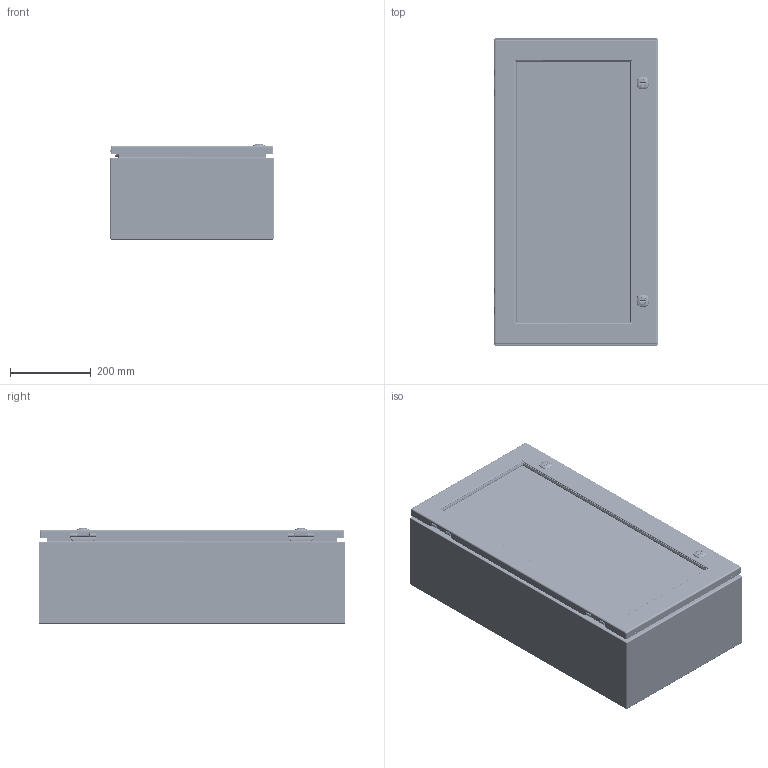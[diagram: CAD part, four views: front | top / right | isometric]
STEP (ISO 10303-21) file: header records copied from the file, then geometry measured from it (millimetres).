
FILE_DESCRIPTION(/* description */ ('5412ESW 30" x 16" x 8" Assembly'),/* implementation_level */ '2;1');
FILE_NAME(/* name */ 'C:\Vault_Workspace\Inventor_Dwg\BoxCad\Result\5412ESW301608\e-mail\3D\5412ESW301608.stp',/* time_stamp */ '2021-09-29T08:29:18-04:00',/* author */ ('BoxCad'),/* organization */ (''),/* preprocessor_version */ 'ST-DEVELOPER v18.1',/* originating_system */ 'Autodesk Inventor 2020',/* authorisation */ '');
FILE_SCHEMA (('AUTOMOTIVE_DESIGN { 1 0 10303 214 3 1 1 }'));
Products named in the file (59): 5412ESW301608; 5412ESW301608B; 5412ESW301608B-P; STK-Q-16005; STUD_M6 x 16mm; STK-S-00100; STK-Q-07610; 881SP3016G; 881SP3016G-P; STK-Q-07310; 5412ESW301608C; 5412ESW301608C-P; 5412ESW301608G; STK-K-09800; STK-K-09800-2; STK-Q-33014; STK-Q-90398; STK-Q-40095; STK-Q-63410; 5412ESW301608LX; 5412ESW301608LXG; 5412ESW301608_STK_G_02705; STK-Q-16052; 5412ESW301608_STK-A-60703; STK-Q-60703-2; STK-Q-60703-1; STK-Q-60703-3; STK-Q-60703-4; STK-Q-60702-A; STK-Q-60703-B; STK-Q-60703-C; STK-Q-60701; STK-Q-60701_1; STK-Q-60701_2; STK-Q-60701_3; STK-Q-60701_4; STK-Q-60701_5; STK-Q-60701_6; STK-Q-60701_7; STK-Q-60701-A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
Assembly tree (127 placements, depth 5):
  5412ESW301608
    5412ESW301608B
      5412ESW301608B-P
      STK-Q-16005  x4
      STK-P-02400S
      STUD_M6 x 16mm
      STK-S-00100
    STK-Q-07610  x4
    881SP3016G
      881SP3016G-P
    STK-Q-07310  x4
    5412ESW301608C
      5412ESW301608C-P
      5412ESW301608G
      STK-K-09800
        STK-Q-33014
        STK-Q-90398
        STK-Q-40095  x2
        STK-Q-63410  x2
      STK-K-09800-2
        STK-Q-33014
        STK-Q-90398
        STK-Q-40095  x2
        STK-Q-63410  x2
      5412ESW301608LX
      5412ESW301608LXG
      5412ESW301608_STK_G_02705
      STK-Q-16052  x12
      5412ESW301608_STK-A-60703
        STK-Q-60703-2
          STK-Q-60702-A
          STK-Q-60703-B
          STK-Q-60703-C
        STK-Q-60703-1
          STK-Q-60702-A
          STK-Q-60703-B
          STK-Q-60703-C
        STK-Q-60703-3
          STK-Q-60702-A
          STK-Q-60703-B
          STK-Q-60703-C
        STK-Q-60703-4
          STK-Q-60702-A
          STK-Q-60703-B
          STK-Q-60703-C
      STK-Q-60701
        STK-Q-60701-A
        STK-Q-60701-B
        STK-Q-60701-C
      STK-Q-60701_1
        STK-Q-60701-A
        STK-Q-60701-B
        STK-Q-60701-C
      STK-Q-60701_2
        STK-Q-60701-A
        STK-Q-60701-B
        STK-Q-60701-C
      STK-Q-60701_3
        STK-Q-60701-A
        STK-Q-60701-B
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Bounding box: 406.47 x 762 x 236.35 mm (x, y, z)
Volume: 3983706.5 mm3; surface area: 3473917.8 mm2
Topology: 101 solids, 101 shells, 20009 faces, 54264 edges, 34845 vertices
Faces by surface type: bspline 7188, plane 6746, cylinder 4800, torus 679, sphere 336, cone 260
Full cylindrical faces by diameter (mm): 0 x1, 0.75 x17, 0.762 x17, 1 x8, 1.1 x8, 3.2 x4, 4.4 x8, 4.5 x12, 4.521 x8, 4.75 x2, 4.85 x16, 4.95 x4, 5 x12, 5.1 x72, 5.156 x4, 5.6 x2, 5.9 x29, 6.65 x4, 6.85 x16, 6.894 x8, 7 x24, 7.3 x2, 7.366 x16, 7.9 x4, 8 x28, 8.382 x2, 9 x12, 9.5 x12, 9.6 x2, 9.906 x4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
Entity records: 201658 total; most frequent: CARTESIAN_POINT 80807, ORIENTED_EDGE 27512, DIRECTION 20131, EDGE_CURVE 13756, VERTEX_POINT 8734, AXIS2_PLACEMENT_3D 6959, LINE 6213, VECTOR 6213
